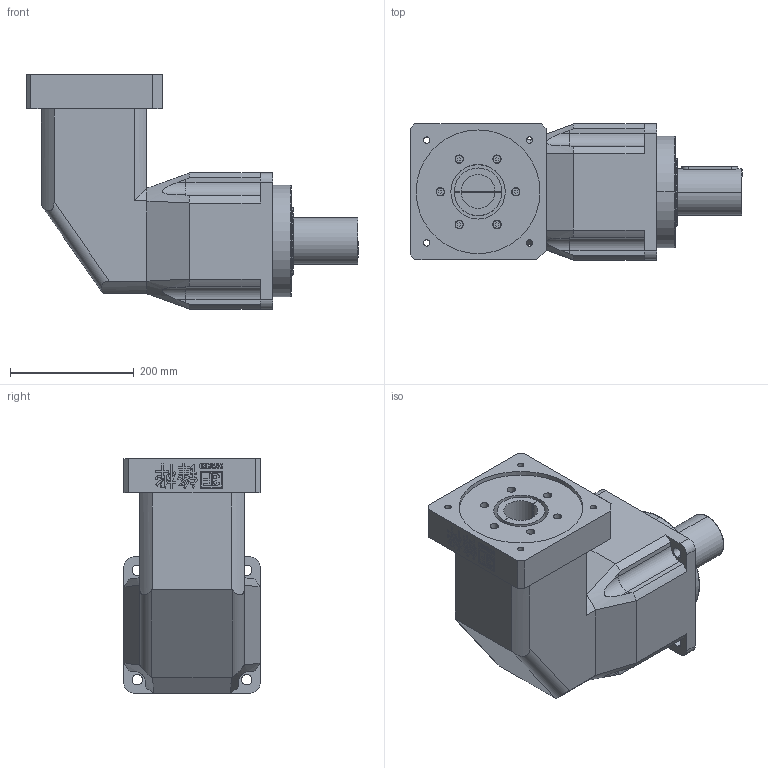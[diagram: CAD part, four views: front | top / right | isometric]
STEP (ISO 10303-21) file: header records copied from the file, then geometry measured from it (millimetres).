
FILE_DESCRIPTION (( 'STEP AP214' ), '1' );
FILE_NAME ('PAR220-L2-55-200-235-M121.STEP', '2019-08-24T02:12:12', ( '微软用户' ), ( '微软中国' ), 'SwSTEP 2.0', 'SolidWorks 2014', '' );
FILE_SCHEMA (( 'AUTOMOTIVE_DESIGN' ));
Length unit declared in the file: millimetre
Products named in the file (2): PAR220-L2-55-200-235-M121
Bounding box: 536.5 x 220 x 378.5 mm (x, y, z)
Volume: 18797124.2 mm3; surface area: 672819.7 mm2
Topology: 1 solids, 1 shells, 852 faces, 2387 edges, 1579 vertices
Faces by surface type: plane 684, cylinder 92, bspline 68, cone 8
Entity records: 34768 total; most frequent: CARTESIAN_POINT 6315, ORIENTED_EDGE 4762, DIRECTION 3967, EDGE_CURVE 2381, LINE 2027, VECTOR 2027, VERTEX_POINT 1579, AXIS2_PLACEMENT_3D 970
